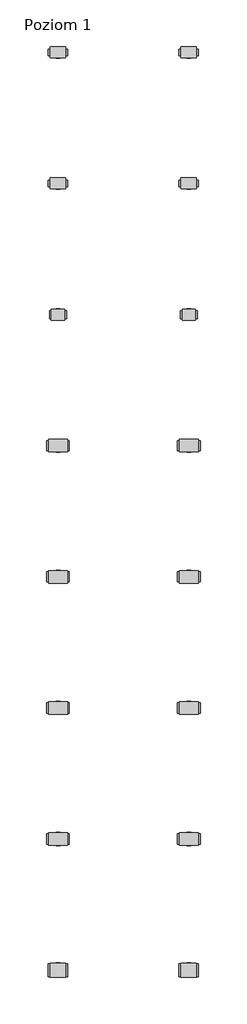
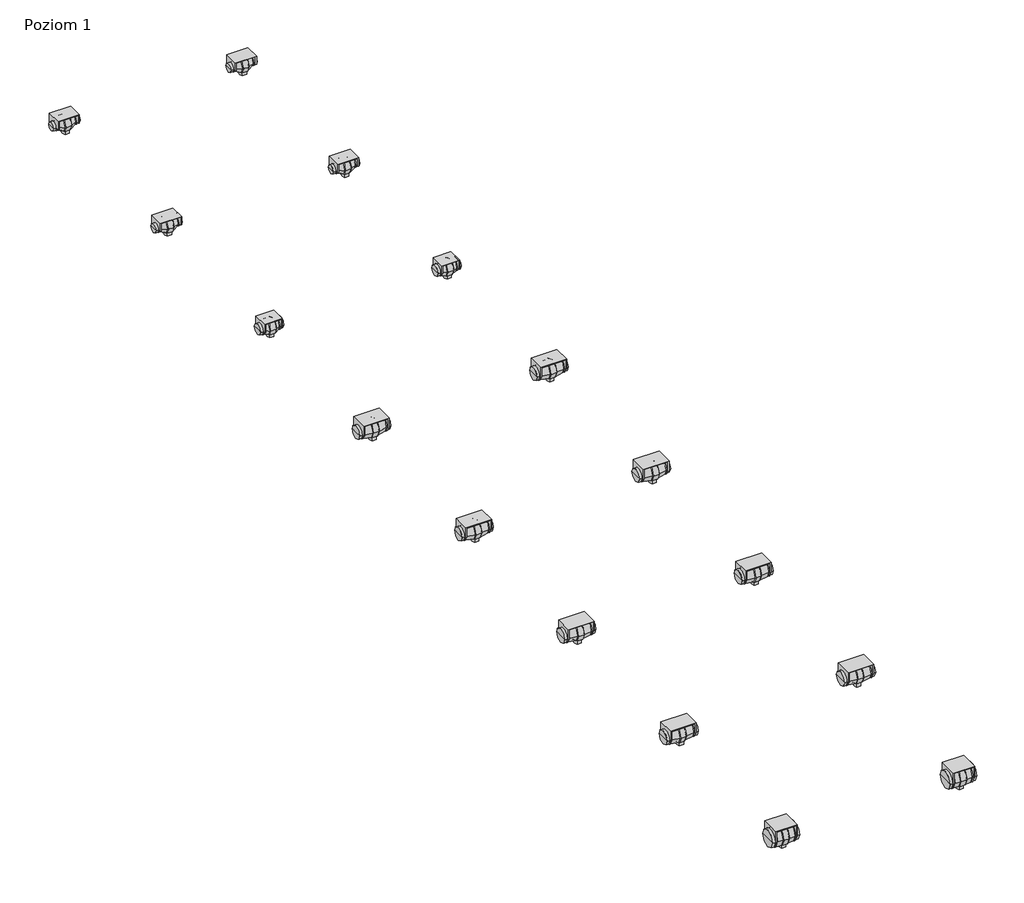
# One storey: 16 unitary equipment elements.
"""IFC4 building model written with IfcOpenShell, lengths in millimetres."""

from ifc_helpers import new_model, si_unit, origin, place, context, project, spatial, transform, mapped, element, save
from components import unitary_equipment_976d24a4, unitary_equipment_cefa6bfa, unitary_equipment_7b71d7c5, unitary_equipment_5950cc30, unitary_equipment_892ff36d

model = new_model("IFC4")

# Units and contexts
model_context = context("Model", 3, world=origin())
ifc_project = project(units=[si_unit("LENGTHUNIT", "METRE", prefix="MILLI")], contexts=[model_context])

# Site, building, storey
site = spatial("IfcSite", under=ifc_project)
building = spatial("IfcBuilding", under=site)
storey = spatial("IfcBuildingStorey", under=building, Name="Poziom 1", Elevation=0.0)

# Unitary equipment
placement = place(None, origin())
unitary_equipment_shape = unitary_equipment_976d24a4(model_context)
element("IfcUnitaryEquipment", 1, ObjectType="VE-Wentylator-ParaForma-Harmann-ML-Nawiewny : 100/300", at=placement, inside=storey, context=model_context, shape_type="MappedRepresentation", body=[
    mapped(unitary_equipment_shape, transform((6582.5, 11000.0, 0.0), x_axis=(1.0, 0.0, 0.0), y_axis=(0.0, 1.0, 0.0), z_axis=(0.0, 0.0, 1.0))),
])
element("IfcUnitaryEquipment", 2, ObjectType="VE-Wentylator-ParaForma-Harmann-ML-Nawiewny : 100/300T", at=placement, inside=storey, context=model_context, shape_type="MappedRepresentation", body=[
    mapped(unitary_equipment_shape, transform((6582.5, 9000.0, 0.0), x_axis=(1.0, 0.0, 0.0), y_axis=(0.0, 1.0, 0.0), z_axis=(0.0, 0.0, 1.0))),
])
unitary_equipment_2_shape = unitary_equipment_cefa6bfa(model_context)
element("IfcUnitaryEquipment", 3, ObjectType="VE-Wentylator-ParaForma-Harmann-ML-Nawiewny : 125/350", at=placement, inside=storey, context=model_context, shape_type="MappedRepresentation", body=[
    mapped(unitary_equipment_2_shape, transform((6582.5, 7000.0, 0.0), x_axis=(1.0, 0.0, 0.0), y_axis=(0.0, 1.0, 0.0), z_axis=(0.0, 0.0, 1.0))),
])
unitary_equipment_3_shape = unitary_equipment_7b71d7c5(model_context)
element("IfcUnitaryEquipment", 4, ObjectType="VE-Wentylator-ParaForma-Harmann-ML-Nawiewny : 150/550", at=placement, inside=storey, context=model_context, shape_type="MappedRepresentation", body=[
    mapped(unitary_equipment_3_shape, transform((6582.5, 5000.0, 0.0), x_axis=(1.0, 0.0, 0.0), y_axis=(0.0, 1.0, 0.0), z_axis=(0.0, 0.0, 1.0))),
])
element("IfcUnitaryEquipment", 5, ObjectType="VE-Wentylator-ParaForma-Harmann-ML-Nawiewny : 150/550T", at=placement, inside=storey, context=model_context, shape_type="MappedRepresentation", body=[
    mapped(unitary_equipment_3_shape, transform((6582.5, 3000.0, 0.0), x_axis=(1.0, 0.0, 0.0), y_axis=(0.0, 1.0, 0.0), z_axis=(0.0, 0.0, 1.0))),
])
unitary_equipment_4_shape = unitary_equipment_5950cc30(model_context)
element("IfcUnitaryEquipment", 6, ObjectType="VE-Wentylator-ParaForma-Harmann-ML-Nawiewny : 160/550", at=placement, inside=storey, context=model_context, shape_type="MappedRepresentation", body=[
    mapped(unitary_equipment_4_shape, transform((6582.5, 1000.0, 0.0), x_axis=(1.0, 0.0, 0.0), y_axis=(0.0, 1.0, 0.0), z_axis=(0.0, 0.0, 1.0))),
])
element("IfcUnitaryEquipment", 7, ObjectType="VE-Wentylator-ParaForma-Harmann-ML-Nawiewny : 160/550T", at=placement, inside=storey, context=model_context, shape_type="MappedRepresentation", body=[
    mapped(unitary_equipment_4_shape, transform((6582.5, -1000.0, 0.0), x_axis=(1.0, 0.0, 0.0), y_axis=(0.0, 1.0, 0.0), z_axis=(0.0, 0.0, 1.0))),
])
unitary_equipment_5_shape = unitary_equipment_892ff36d(model_context)
element("IfcUnitaryEquipment", 8, ObjectType="VE-Wentylator-ParaForma-Harmann-ML-Nawiewny : 200/950", at=placement, inside=storey, context=model_context, shape_type="MappedRepresentation", body=[
    mapped(unitary_equipment_5_shape, transform((6582.5, -3000.0, 0.0), x_axis=(1.0, 0.0, 0.0), y_axis=(0.0, 1.0, 0.0), z_axis=(0.0, 0.0, 1.0))),
])
element("IfcUnitaryEquipment", 9, ObjectType="VE-Wentylator-ParaForma-Harmann-ML-Wywiewny : 100/300", at=placement, inside=storey, context=model_context, shape_type="MappedRepresentation", body=[
    mapped(unitary_equipment_shape, transform((4582.5, 11000.0, 0.0), x_axis=(1.0, 0.0, 0.0), y_axis=(0.0, 1.0, 0.0), z_axis=(0.0, 0.0, 1.0))),
])
element("IfcUnitaryEquipment", 10, ObjectType="VE-Wentylator-ParaForma-Harmann-ML-Wywiewny : 100/300T", at=placement, inside=storey, context=model_context, shape_type="MappedRepresentation", body=[
    mapped(unitary_equipment_shape, transform((4582.5, 9000.0, 0.0), x_axis=(1.0, 0.0, 0.0), y_axis=(0.0, 1.0, 0.0), z_axis=(0.0, 0.0, 1.0))),
])
element("IfcUnitaryEquipment", 11, ObjectType="VE-Wentylator-ParaForma-Harmann-ML-Wywiewny : 125/350", at=placement, inside=storey, context=model_context, shape_type="MappedRepresentation", body=[
    mapped(unitary_equipment_2_shape, transform((4582.5, 7000.0, 0.0), x_axis=(1.0, 0.0, 0.0), y_axis=(0.0, 1.0, 0.0), z_axis=(0.0, 0.0, 1.0))),
])
element("IfcUnitaryEquipment", 12, ObjectType="VE-Wentylator-ParaForma-Harmann-ML-Wywiewny : 150/550", at=placement, inside=storey, context=model_context, shape_type="MappedRepresentation", body=[
    mapped(unitary_equipment_3_shape, transform((4582.5, 5000.0, 0.0), x_axis=(1.0, 0.0, 0.0), y_axis=(0.0, 1.0, 0.0), z_axis=(0.0, 0.0, 1.0))),
])
element("IfcUnitaryEquipment", 13, ObjectType="VE-Wentylator-ParaForma-Harmann-ML-Wywiewny : 150/550T", at=placement, inside=storey, context=model_context, shape_type="MappedRepresentation", body=[
    mapped(unitary_equipment_3_shape, transform((4582.5, 3000.0, 0.0), x_axis=(1.0, 0.0, 0.0), y_axis=(0.0, 1.0, 0.0), z_axis=(0.0, 0.0, 1.0))),
])
element("IfcUnitaryEquipment", 14, ObjectType="VE-Wentylator-ParaForma-Harmann-ML-Wywiewny : 160/550", at=placement, inside=storey, context=model_context, shape_type="MappedRepresentation", body=[
    mapped(unitary_equipment_4_shape, transform((4582.5, 1000.0, 0.0), x_axis=(1.0, 0.0, 0.0), y_axis=(0.0, 1.0, 0.0), z_axis=(0.0, 0.0, 1.0))),
])
element("IfcUnitaryEquipment", 15, ObjectType="VE-Wentylator-ParaForma-Harmann-ML-Wywiewny : 160/550T", at=placement, inside=storey, context=model_context, shape_type="MappedRepresentation", body=[
    mapped(unitary_equipment_4_shape, transform((4582.5, -1000.0, 0.0), x_axis=(1.0, 0.0, 0.0), y_axis=(0.0, 1.0, 0.0), z_axis=(0.0, 0.0, 1.0))),
])
element("IfcUnitaryEquipment", 16, ObjectType="VE-Wentylator-ParaForma-Harmann-ML-Wywiewny : 200/950", at=placement, inside=storey, context=model_context, shape_type="MappedRepresentation", body=[
    mapped(unitary_equipment_5_shape, transform((4582.5, -3000.0, 0.0), x_axis=(1.0, 0.0, 0.0), y_axis=(0.0, 1.0, 0.0), z_axis=(0.0, 0.0, 1.0))),
])

save(model, "model.ifc")
